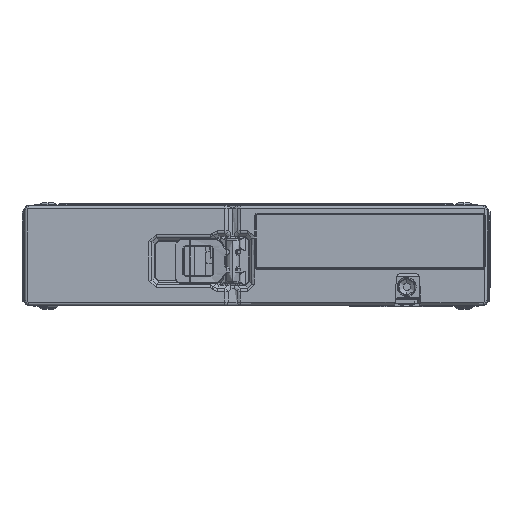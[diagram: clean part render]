
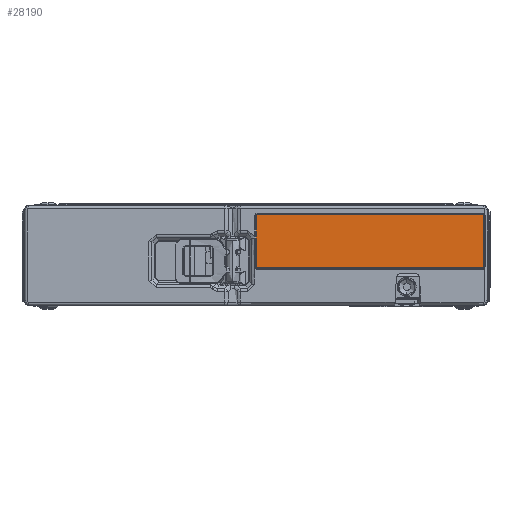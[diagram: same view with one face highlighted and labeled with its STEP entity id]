
A CAD part, top view. The second image highlights one B-rep face of the part: STEP entity #28190.
In plain terms, the highlighted planar face has unit normal (0, 0, 1).
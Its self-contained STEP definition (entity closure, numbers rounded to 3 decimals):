
#1305 = CARTESIAN_POINT ( 'NONE',  ( 0.097, 12.821, 4.85 ) ) ;
#8865 = VERTEX_POINT ( 'NONE', #243575 ) ;
#10844 = CARTESIAN_POINT ( 'NONE',  ( 77.738, 12.812, 4.85 ) ) ;
#11630 = CARTESIAN_POINT ( 'NONE',  ( 0.089, 22.933, 4.85 ) ) ;
#12499 = DIRECTION ( 'NONE',  ( -1., 0., 0. ) ) ;
#14108 = CARTESIAN_POINT ( 'NONE',  ( 0.42, 30.412, 4.85 ) ) ;
#15372 = B_SPLINE_CURVE_WITH_KNOTS ( 'NONE', 3,
 ( #266468, #204501, #1305, #39013 ),
 .UNSPECIFIED., .F., .F.,
 ( 4, 4 ),
 ( 0., 0. ),
 .UNSPECIFIED. ) ;
#19135 = ORIENTED_EDGE ( 'NONE', *, *, #173619, .T. ) ;
#21912 = DIRECTION ( 'NONE',  ( 0., 1., 0. ) ) ;
#23038 = DIRECTION ( 'NONE',  ( 0., 0., 1. ) ) ;
#23355 = AXIS2_PLACEMENT_3D ( 'NONE', #147327, #143367, #229425 ) ;
#23414 = CIRCLE ( 'NONE', #126574, 0.33 ) ;
#23567 = B_SPLINE_CURVE_WITH_KNOTS ( 'NONE', 3,
 ( #105960, #128755, #249956, #186710 ),
 .UNSPECIFIED., .F., .F.,
 ( 4, 4 ),
 ( 0., 0. ),
 .UNSPECIFIED. ) ;
#24012 = VERTEX_POINT ( 'NONE', #119543 ) ;
#28190 = ADVANCED_FACE ( 'NONE', ( #166218 ), #248359, .T. ) ;
#28671 = VERTEX_POINT ( 'NONE', #106377 ) ;
#32430 = EDGE_CURVE ( 'NONE', #256199, #100115, #80761, .T. ) ;
#33598 = CARTESIAN_POINT ( 'NONE',  ( 77.738, 30.503, 4.85 ) ) ;
#36878 = EDGE_CURVE ( 'NONE', #28671, #41185, #23567, .T. ) ;
#37151 = ORIENTED_EDGE ( 'NONE', *, *, #226282, .T. ) ;
#37225 = VERTEX_POINT ( 'NONE', #99021 ) ;
#39013 = CARTESIAN_POINT ( 'NONE',  ( 0.112, 12.783, 4.85 ) ) ;
#39445 = LINE ( 'NONE', #121529, #119408 ) ;
#39955 = B_SPLINE_CURVE_WITH_KNOTS ( 'NONE', 3,
 ( #256562, #154245, #11630, #160579 ),
 .UNSPECIFIED., .F., .F.,
 ( 4, 4 ),
 ( 0., 0.001 ),
 .UNSPECIFIED. ) ;
#40498 = VERTEX_POINT ( 'NONE', #139482 ) ;
#41185 = VERTEX_POINT ( 'NONE', #33598 ) ;
#43690 = VECTOR ( 'NONE', #148933, 1000. ) ;
#45315 = EDGE_CURVE ( 'NONE', #37225, #203232, #196834, .T. ) ;
#46822 = VECTOR ( 'NONE', #227015, 1000. ) ;
#54632 = DIRECTION ( 'NONE',  ( 1., 0., 0. ) ) ;
#59061 = ORIENTED_EDGE ( 'NONE', *, *, #95894, .T. ) ;
#60635 = CIRCLE ( 'NONE', #155312, 0.33 ) ;
#62811 = LINE ( 'NONE', #144906, #46822 ) ;
#71781 = CARTESIAN_POINT ( 'NONE',  ( 0.42, 12.572, 4.85 ) ) ;
#72463 = EDGE_CURVE ( 'NONE', #100115, #40498, #15372, .T. ) ;
#76184 = CIRCLE ( 'NONE', #127651, 0.33 ) ;
#78445 = CARTESIAN_POINT ( 'NONE',  ( 77.42, 12.572, 4.85 ) ) ;
#80761 = LINE ( 'NONE', #122502, #43690 ) ;
#89408 = EDGE_CURVE ( 'NONE', #24012, #256199, #39955, .T. ) ;
#95894 = EDGE_CURVE ( 'NONE', #203232, #127082, #60635, .T. ) ;
#99021 = CARTESIAN_POINT ( 'NONE',  ( 77.42, 30.743, 4.85 ) ) ;
#99655 = ORIENTED_EDGE ( 'NONE', *, *, #213696, .T. ) ;
#100115 = VERTEX_POINT ( 'NONE', #225580 ) ;
#100701 = ORIENTED_EDGE ( 'NONE', *, *, #132661, .T. ) ;
#105960 = CARTESIAN_POINT ( 'NONE',  ( 77.751, 30.413, 4.85 ) ) ;
#106114 = EDGE_CURVE ( 'NONE', #127082, #24012, #62811, .T. ) ;
#106377 = CARTESIAN_POINT ( 'NONE',  ( 77.751, 30.413, 4.85 ) ) ;
#113824 = VERTEX_POINT ( 'NONE', #255768 ) ;
#116713 = CARTESIAN_POINT ( 'NONE',  ( 77.751, 12.903, 4.85 ) ) ;
#118157 = DIRECTION ( 'NONE',  ( 1., 0., 0. ) ) ;
#119408 = VECTOR ( 'NONE', #21912, 1000. ) ;
#119543 = CARTESIAN_POINT ( 'NONE',  ( 0.09, 23.351, 4.85 ) ) ;
#121529 = CARTESIAN_POINT ( 'NONE',  ( 77.751, 30.413, 4.85 ) ) ;
#122502 = CARTESIAN_POINT ( 'NONE',  ( 0.089, 12.903, 4.85 ) ) ;
#123575 = ORIENTED_EDGE ( 'NONE', *, *, #164591, .T. ) ;
#123824 = EDGE_LOOP ( 'NONE', ( #263609, #123575, #99655, #226942, #37151, #209310, #59061, #185386, #175831, #262094, #169898, #100701, #19135 ) ) ;
#126574 = AXIS2_PLACEMENT_3D ( 'NONE', #259536, #223092, #118157 ) ;
#127082 = VERTEX_POINT ( 'NONE', #236089 ) ;
#127651 = AXIS2_PLACEMENT_3D ( 'NONE', #222837, #202618, #220166 ) ;
#128755 = CARTESIAN_POINT ( 'NONE',  ( 77.751, 30.443, 4.85 ) ) ;
#132661 = EDGE_CURVE ( 'NONE', #40498, #227239, #201469, .T. ) ;
#134675 = CARTESIAN_POINT ( 'NONE',  ( 0.089, 22.724, 4.85 ) ) ;
#139482 = CARTESIAN_POINT ( 'NONE',  ( 0.112, 12.783, 4.85 ) ) ;
#143367 = DIRECTION ( 'NONE',  ( 0., 0., 1. ) ) ;
#144906 = CARTESIAN_POINT ( 'NONE',  ( 0.09, 23.351, 4.85 ) ) ;
#147327 = CARTESIAN_POINT ( 'NONE',  ( 0., 16.828, 4.85 ) ) ;
#148933 = DIRECTION ( 'NONE',  ( 0., -1., 0. ) ) ;
#153463 = CARTESIAN_POINT ( 'NONE',  ( 77.746, 12.842, 4.85 ) ) ;
#154245 = CARTESIAN_POINT ( 'NONE',  ( 0.09, 23.142, 4.85 ) ) ;
#154788 = CARTESIAN_POINT ( 'NONE',  ( 77.751, 12.872, 4.85 ) ) ;
#155312 = AXIS2_PLACEMENT_3D ( 'NONE', #14108, #23038, #165680 ) ;
#160579 = CARTESIAN_POINT ( 'NONE',  ( 0.089, 22.724, 4.85 ) ) ;
#164591 = EDGE_CURVE ( 'NONE', #113824, #251041, #214033, .T. ) ;
#165680 = DIRECTION ( 'NONE',  ( 1., 0., 0. ) ) ;
#166218 = FACE_OUTER_BOUND ( 'NONE', #123824, .T. ) ;
#169898 = ORIENTED_EDGE ( 'NONE', *, *, #72463, .T. ) ;
#171097 = CARTESIAN_POINT ( 'NONE',  ( 0.42, 30.743, 4.85 ) ) ;
#173619 = EDGE_CURVE ( 'NONE', #227239, #8865, #200911, .T. ) ;
#175831 = ORIENTED_EDGE ( 'NONE', *, *, #89408, .T. ) ;
#185386 = ORIENTED_EDGE ( 'NONE', *, *, #106114, .T. ) ;
#186710 = CARTESIAN_POINT ( 'NONE',  ( 77.738, 30.503, 4.85 ) ) ;
#188572 = AXIS2_PLACEMENT_3D ( 'NONE', #221478, #243028, #54632 ) ;
#193823 = CARTESIAN_POINT ( 'NONE',  ( 77.751, 12.903, 4.85 ) ) ;
#193905 = EDGE_CURVE ( 'NONE', #8865, #113824, #76184, .T. ) ;
#195494 = CARTESIAN_POINT ( 'NONE',  ( 0.42, 30.743, 4.85 ) ) ;
#196834 = LINE ( 'NONE', #195494, #199838 ) ;
#199838 = VECTOR ( 'NONE', #12499, 1000. ) ;
#200911 = LINE ( 'NONE', #78445, #237635 ) ;
#201469 = CIRCLE ( 'NONE', #188572, 0.33 ) ;
#202618 = DIRECTION ( 'NONE',  ( 0., 0., 1. ) ) ;
#203232 = VERTEX_POINT ( 'NONE', #171097 ) ;
#204501 = CARTESIAN_POINT ( 'NONE',  ( 0.089, 12.861, 4.85 ) ) ;
#209310 = ORIENTED_EDGE ( 'NONE', *, *, #45315, .T. ) ;
#213696 = EDGE_CURVE ( 'NONE', #251041, #28671, #39445, .T. ) ;
#214033 = B_SPLINE_CURVE_WITH_KNOTS ( 'NONE', 3,
 ( #10844, #153463, #154788, #193823 ),
 .UNSPECIFIED., .F., .F.,
 ( 4, 4 ),
 ( 0., 0. ),
 .UNSPECIFIED. ) ;
#220166 = DIRECTION ( 'NONE',  ( 1., 0., 0. ) ) ;
#221478 = CARTESIAN_POINT ( 'NONE',  ( 0.42, 12.903, 4.85 ) ) ;
#222837 = CARTESIAN_POINT ( 'NONE',  ( 77.42, 12.903, 4.85 ) ) ;
#223092 = DIRECTION ( 'NONE',  ( 0., 0., 1. ) ) ;
#225580 = CARTESIAN_POINT ( 'NONE',  ( 0.089, 12.903, 4.85 ) ) ;
#226282 = EDGE_CURVE ( 'NONE', #41185, #37225, #23414, .T. ) ;
#226942 = ORIENTED_EDGE ( 'NONE', *, *, #36878, .T. ) ;
#227015 = DIRECTION ( 'NONE',  ( 0., -1., 0. ) ) ;
#227239 = VERTEX_POINT ( 'NONE', #71781 ) ;
#229425 = DIRECTION ( 'NONE',  ( 1., 0., 0. ) ) ;
#236089 = CARTESIAN_POINT ( 'NONE',  ( 0.09, 30.412, 4.85 ) ) ;
#237635 = VECTOR ( 'NONE', #242676, 1000. ) ;
#242676 = DIRECTION ( 'NONE',  ( 1., 0., 0. ) ) ;
#243028 = DIRECTION ( 'NONE',  ( 0., 0., 1. ) ) ;
#243575 = CARTESIAN_POINT ( 'NONE',  ( 77.42, 12.572, 4.85 ) ) ;
#248359 = PLANE ( 'NONE',  #23355 ) ;
#249956 = CARTESIAN_POINT ( 'NONE',  ( 77.746, 30.473, 4.85 ) ) ;
#251041 = VERTEX_POINT ( 'NONE', #116713 ) ;
#255768 = CARTESIAN_POINT ( 'NONE',  ( 77.738, 12.812, 4.85 ) ) ;
#256199 = VERTEX_POINT ( 'NONE', #134675 ) ;
#256562 = CARTESIAN_POINT ( 'NONE',  ( 0.09, 23.351, 4.85 ) ) ;
#259536 = CARTESIAN_POINT ( 'NONE',  ( 77.42, 30.413, 4.85 ) ) ;
#262094 = ORIENTED_EDGE ( 'NONE', *, *, #32430, .T. ) ;
#263609 = ORIENTED_EDGE ( 'NONE', *, *, #193905, .T. ) ;
#266468 = CARTESIAN_POINT ( 'NONE',  ( 0.089, 12.903, 4.85 ) ) ;
